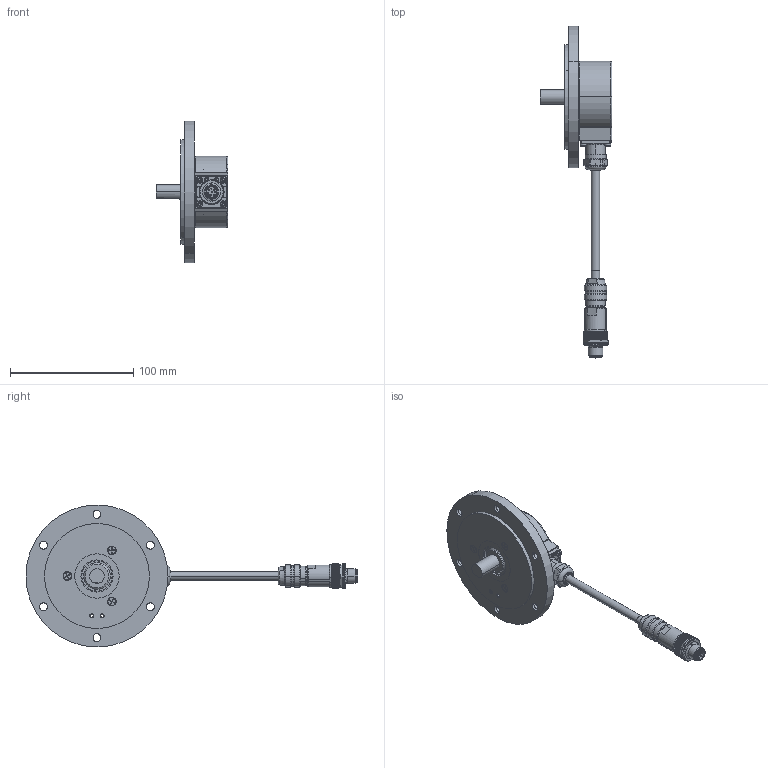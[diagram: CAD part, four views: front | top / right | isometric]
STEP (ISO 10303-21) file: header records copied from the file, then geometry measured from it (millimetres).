
FILE_DESCRIPTION (( 'STEP AP203' ), '1' );
FILE_NAME ('K58I.OXX.XXXXX.XS1E512.6XR12.XXXX.step', '2025-12-08T16:06:58', ( '' ), ( '' ), 'SwSTEP 2.0', 'SolidWorks 2021', '' );
FILE_SCHEMA (( 'CONFIG_CONTROL_DESIGN' ));
Length unit declared in the file: millimetre
Products named in the file (1): K58I.OXX.XXXXX.XS1E512.6XR12.XXXX
Bounding box: 58.19 x 268.99 x 115 mm (x, y, z)
Volume: 229229 mm3; surface area: 67490.7 mm2
Topology: 18 solids, 18 shells, 1561 faces, 3808 edges, 2323 vertices
Faces by surface type: plane 563, cylinder 561, cone 313, bspline 54, torus 38, sphere 32
Entity records: 48569 total; most frequent: CARTESIAN_POINT 12884, ORIENTED_EDGE 7522, DIRECTION 7400, EDGE_CURVE 3761, AXIS2_PLACEMENT_3D 2953, VERTEX_POINT 2305, EDGE_LOOP 1668, FACE_OUTER_BOUND 1561
